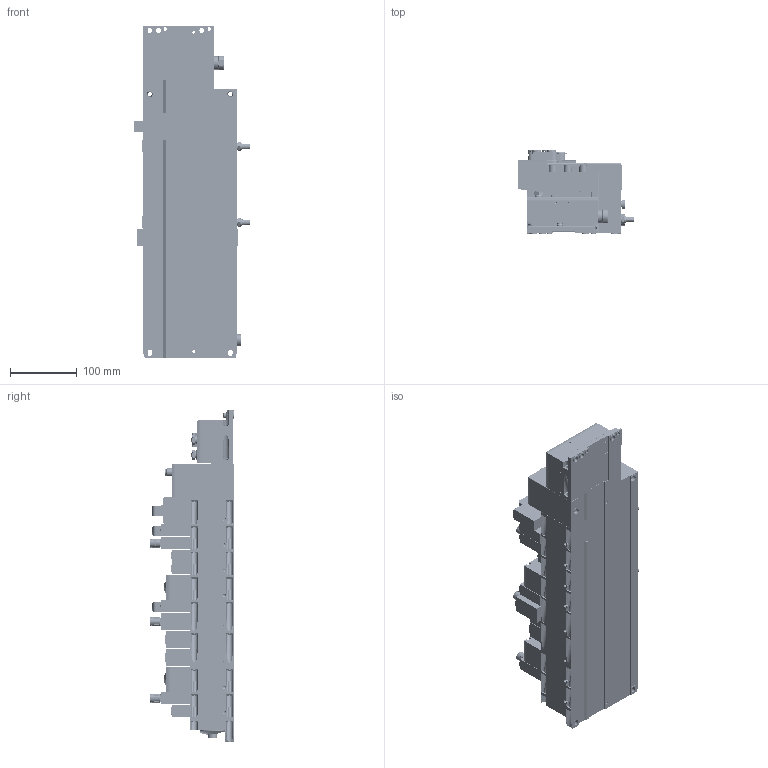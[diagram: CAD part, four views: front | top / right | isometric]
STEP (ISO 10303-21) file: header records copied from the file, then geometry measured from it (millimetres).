
FILE_DESCRIPTION( ( 'STEP AP214' ), '1' );
FILE_NAME( 'p:/temp/worker_724/temp/exporttempdir_3332_302_3ddhq/format_0/8073100_51E-F36GCQP-RB.stp', '2020-08-10T12:37:25', ( 'License CC BY-ND 4.0' ), ( 'CADENAS' ), ' ', 'PARTsolutions', ' ' );
FILE_SCHEMA( ( 'AUTOMOTIVE_DESIGN { 1 0 10303 214 1 1 1 1 }' ) );
Length unit declared in the file: millimetre
Products named in the file (27): 8073100 51E-F36GCQP-RB 46P-B-YS-PVPNNGWOGWZQZYBAYQLUSWYLNBSOGWYCBYQTLUWYLNGWOGWA-CSJLLCSJLLJL; HI_8082878 VABA-S6-1-X2-3V-CB---(EPL); HI_8068609 VABV-S6-1Q-G38-CB1-T5---(VKPL_0); _8067405 VABF-S6-1-P5A4S2YE-G12-1T5-PA---(high); _174308 B-M5-B---(VCB); _8068913 VABV-S4-2HS-G18-CB-2T5---(VKPL_0); _3568 B-1/8---(VCB); HI_8066569 VSVA-BT-M32CS1-MYE-A2-1T5L-PA---(VT4617); _1205860 AMTE-M-LH-G18---(VCB); HI_8033450 VSVA-B-B52-ZTR-A2-1T1L---(VT462); _4105147 VAMC-B-S6-CTR---(vtsa_kappe); _8067932 VABV-S4-2HS-G18-CB-2T2---(VKPL_0); HI_539213 VABB-S4-2-WT---(VT465); HI_8104044 VABF-S6-1-P8A7-G12-CB1---(VT46); HI_8090343 VABF-S6-1-P8A7-G12-CB-DECKEL---(VT46); HI_8068912 VABV-S4-12HS-G-CB-2T5---(VKPL_0); HI_539156 VSVA-B-B52-ZD-A1-1T1L---(VT461); HI_8067940 VABV-S4-1HS-G14-CB-2T2---(VKPL_0); HI_539212 VABB-S4-1-WT---(VT464); HI_8104042 VABF-S6-1-P8A7-G12-CB---(VT46); _539238 VABE-S6-1RZ-G-B1---(PL); _3569 B-1/4---(VCBE); HI_550212 CPX-M-EPL-EV---(EPL_51E); HI_550208 CPX-M-GE-EV-S-7/8-5POL---(EV); HI_1912451 CPX-FB36---(EA); _533334 AK-SUB-9/15-B---(A); _165592 ISK-M12
Assembly tree (41 placements, depth 2):
  8073100 51E-F36GCQP-RB 46P-B-YS-PVPNNGWOGWZQZYBAYQLUSWYLNBSOGWYCBYQTLUWYLNGWOGWA-CSJLLCSJLLJL
    HI_8082878 VABA-S6-1-X2-3V-CB---(EPL)
    HI_8068609 VABV-S6-1Q-G38-CB1-T5---(VKPL_0)
    _8067405 VABF-S6-1-P5A4S2YE-G12-1T5-PA---(high)
    _174308 B-M5-B---(VCB)
    _8068913 VABV-S4-2HS-G18-CB-2T5---(VKPL_0)
    _3568 B-1/8---(VCB)  x2
    HI_8066569 VSVA-BT-M32CS1-MYE-A2-1T5L-PA---(VT4617)  x2
    _1205860 AMTE-M-LH-G18---(VCB)  x2
    HI_8033450 VSVA-B-B52-ZTR-A2-1T1L---(VT462)  x2
    _4105147 VAMC-B-S6-CTR---(vtsa_kappe)  x6
    _8067932 VABV-S4-2HS-G18-CB-2T2---(VKPL_0)  x2
    HI_539213 VABB-S4-2-WT---(VT465)  x3
    HI_8104044 VABF-S6-1-P8A7-G12-CB1---(VT46)
    HI_8090343 VABF-S6-1-P8A7-G12-CB-DECKEL---(VT46)  x2
    HI_8068912 VABV-S4-12HS-G-CB-2T5---(VKPL_0)
    HI_539156 VSVA-B-B52-ZD-A1-1T1L---(VT461)
    HI_8067940 VABV-S4-1HS-G14-CB-2T2---(VKPL_0)
    HI_539212 VABB-S4-1-WT---(VT464)  x2
    HI_8104042 VABF-S6-1-P8A7-G12-CB---(VT46)
    _539238 VABE-S6-1RZ-G-B1---(PL)
    _3569 B-1/4---(VCBE)
    HI_550212 CPX-M-EPL-EV---(EPL_51E)
    HI_550208 CPX-M-GE-EV-S-7/8-5POL---(EV)
    HI_1912451 CPX-FB36---(EA)
    _533334 AK-SUB-9/15-B---(A)
    _165592 ISK-M12  x2
Bounding box: 173.6 x 126.04 x 498.8 mm (x, y, z)
Volume: 5295597.2 mm3; surface area: 804186.9 mm2
Topology: 41 solids, 41 shells, 4808 faces, 12314 edges, 8066 vertices
Faces by surface type: plane 2797, cylinder 1488, cone 447, torus 60, bspline 13, sphere 3
Full cylindrical faces by diameter (mm): 1 x15, 1.1 x8, 1.5 x5, 2 x5, 2.459 x6, 2.7 x2, 2.8 x6, 3 x4, 3.2 x10, 3.242 x32, 3.3 x15, 3.4 x10, 4 x17, 4.05 x2, 4.134 x55, 4.3 x11, 4.5 x1, 5 x45, 5.2 x32, 5.5 x8, 5.6 x2, 5.8 x6, 6 x15, 6.4 x5, 6.5 x2, 6.6 x7, 7.2 x2, 7.5 x8, 7.6 x10, 8 x12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
Entity records: 129863 total; most frequent: CARTESIAN_POINT 19333, DIRECTION 17501, ORIENTED_EDGE 15608, EDGE_CURVE 7804, AXIS2_PLACEMENT_3D 6376, VERTEX_POINT 5593, EDGE_LOOP 4812, LINE 4749
